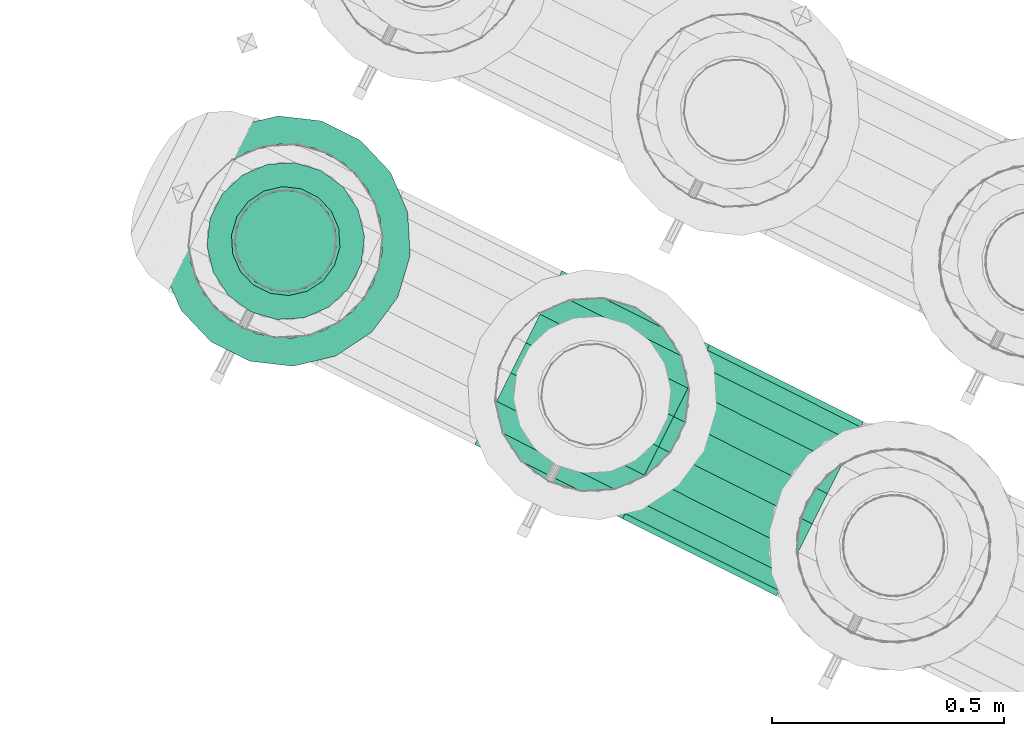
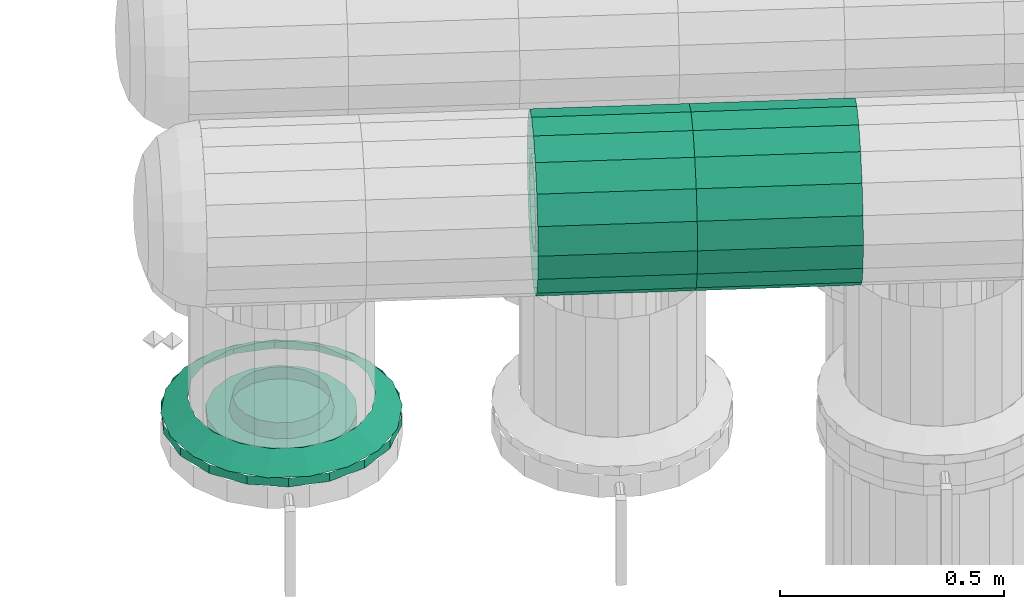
# One storey, part 89 of 152: 2 flow fittings, 1 flow segment.
"""IFC2X3 building model written with IfcOpenShell, lengths in metres."""

from ifc_helpers import new_model, si_unit, derived_unit, direction, frame, origin, place, context, subcontext, project, spatial, face_set, surface_model, source, transform, mapped, material, type_object, type_shapes, element, save


model = new_model("IFC2X3")

# Units and contexts
model_context = context("Model", 3, precision=5.2338327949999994e-05, world=origin(), true_north=direction((0.0, 1.0)))
body_context = subcontext(model_context, "Body", "Model", "MODEL_VIEW")
ifc_project = project(units=[si_unit("LENGTHUNIT", "METRE"), si_unit("AREAUNIT", "SQUARE_METRE"), si_unit("VOLUMEUNIT", "CUBIC_METRE"), si_unit("MASSUNIT", "GRAM", prefix="KILO"), si_unit("PLANEANGLEUNIT", "RADIAN"), derived_unit("THERMALTRANSMITTANCEUNIT", [(si_unit("MASSUNIT", "GRAM", prefix="KILO"), 1), (si_unit("THERMODYNAMICTEMPERATUREUNIT", "KELVIN"), -1), (si_unit("TIMEUNIT", "SECOND"), -3)])], contexts=[model_context])

# Site, building, storey
site_placement = place(None, frame((0.0, 0.0, 0.0), z_axis=(0.0, 0.0, 1.0), x_axis=(0.8939966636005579, -0.4480736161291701, 0.0)))
site = spatial("IfcSite", under=ifc_project, at=site_placement, Name="Default", CompositionType="ELEMENT")
building_placement = place(site_placement, origin())
building = spatial("IfcBuilding", under=site, at=building_placement, CompositionType="ELEMENT")
storey_placement = place(building_placement, frame((0.0, 0.0, 2.7499999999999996)))
storey = spatial("IfcBuildingStorey", under=building, at=storey_placement, Name="1. Obergeschoss", CompositionType="ELEMENT", Elevation=2.7499999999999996)

# Flow fitting
ifc_material = material(Name="IfcSurfaceStyle #9317")
distribution_element_type_1 = type_object("IfcDistributionElementType", Name="Abzweigstück 226052:Abzweigstück 226052", material=ifc_material)
shared_shape_1 = source(origin(), body_context, "Body", "SurfaceModel", [
    surface_model("IfcFaceBasedSurfaceModel", [(6.039419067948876, 7.217658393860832, 5.553028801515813), (6.039419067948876, 7.224265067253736, 5.59049710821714), (5.6834190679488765, 7.224265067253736, 5.59049710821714), (5.6834190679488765, 7.217658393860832, 5.553028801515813), (6.039419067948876, 7.243288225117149, 5.623446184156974), (5.6834190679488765, 7.243288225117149, 5.623446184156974), (6.039419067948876, 7.272433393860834, 5.6479018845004), (5.6834190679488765, 7.272433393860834, 5.6479018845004), (6.039419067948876, 7.308185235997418, 5.660914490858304), (5.6834190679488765, 7.308185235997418, 5.660914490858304), (6.039419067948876, 7.346231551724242, 5.660914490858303), (5.6834190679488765, 7.346231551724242, 5.660914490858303), (6.039419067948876, 7.381983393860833, 5.647901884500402), (5.6834190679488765, 7.381983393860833, 5.647901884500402), (6.039419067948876, 7.411128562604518, 5.623446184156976), (5.6834190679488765, 7.411128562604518, 5.623446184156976), (6.039419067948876, 7.430151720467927, 5.590497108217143), (5.6834190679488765, 7.430151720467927, 5.590497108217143), (6.039419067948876, 7.436758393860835, 5.553028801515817), (5.6834190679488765, 7.436758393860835, 5.553028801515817), (6.039419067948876, 7.4301517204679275, 5.51556049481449), (5.6834190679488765, 7.4301517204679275, 5.51556049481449), (6.039419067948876, 7.411128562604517, 5.482611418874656), (5.6834190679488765, 7.411128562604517, 5.482611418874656), (6.039419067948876, 7.381983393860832, 5.458155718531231), (5.6834190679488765, 7.381983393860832, 5.458155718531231), (6.039419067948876, 7.3462315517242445, 5.445143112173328), (5.6834190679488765, 7.3462315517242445, 5.445143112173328), (6.039419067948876, 7.308185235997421, 5.445143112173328), (5.6834190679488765, 7.308185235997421, 5.445143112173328), (6.039419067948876, 7.272433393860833, 5.45815571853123), (5.6834190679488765, 7.272433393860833, 5.45815571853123), (6.039419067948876, 7.243288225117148, 5.4826114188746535), (5.6834190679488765, 7.243288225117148, 5.4826114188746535), (6.039419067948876, 7.224265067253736, 5.515560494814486), (5.6834190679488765, 7.224265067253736, 5.515560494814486), (6.039419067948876, 7.117658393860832, 5.553028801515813), (6.039419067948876, 7.130295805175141, 5.624699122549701), (5.6834190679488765, 7.130295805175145, 5.624699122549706), (5.6834190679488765, 7.117658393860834, 5.553028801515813), (6.039419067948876, 7.166683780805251, 5.687724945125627), (5.6834190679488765, 7.166683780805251, 5.687724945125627), (6.039419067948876, 7.222433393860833, 5.734504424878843), (5.6834190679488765, 7.222433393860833, 5.734504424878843), (6.039419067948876, 7.290820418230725, 5.759395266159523), (5.6834190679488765, 7.290820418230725, 5.759395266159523), (6.039419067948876, 7.363596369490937, 5.759395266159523), (5.6834190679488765, 7.363596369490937, 5.759395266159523), (6.039419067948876, 7.43198339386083, 5.734504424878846), (5.6834190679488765, 7.43198339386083, 5.734504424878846), (6.039419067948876, 7.487733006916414, 5.687724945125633), (5.6834190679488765, 7.487733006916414, 5.687724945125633), (6.039419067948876, 7.52412098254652, 5.6246991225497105), (5.6834190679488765, 7.52412098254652, 5.6246991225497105), (6.039419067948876, 7.536758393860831, 5.553028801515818), (5.6834190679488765, 7.536758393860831, 5.553028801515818), (6.039419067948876, 7.5241209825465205, 5.481358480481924), (5.6834190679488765, 7.5241209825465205, 5.481358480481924), (6.039419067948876, 7.487733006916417, 5.418332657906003), (5.6834190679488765, 7.487733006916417, 5.418332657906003), (6.039419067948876, 7.431983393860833, 5.371553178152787), (5.6834190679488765, 7.431983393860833, 5.371553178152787), (6.039419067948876, 7.36359636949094, 5.3466623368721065), (5.6834190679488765, 7.36359636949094, 5.3466623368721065), (6.039419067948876, 7.29082041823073, 5.3466623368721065), (5.6834190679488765, 7.29082041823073, 5.3466623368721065), (6.039419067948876, 7.222433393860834, 5.3715531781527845), (5.6834190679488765, 7.222433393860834, 5.3715531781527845), (6.039419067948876, 7.166683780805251, 5.418332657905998), (5.6834190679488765, 7.166683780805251, 5.418332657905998), (6.039419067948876, 7.130295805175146, 5.481358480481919), (5.6834190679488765, 7.130295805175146, 5.481358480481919), (5.751869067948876, 7.327208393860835, 5.443478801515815), (5.758475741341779, 7.3646767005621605, 5.45008547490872), (5.758475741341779, 7.3646767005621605, 5.375028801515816), (5.751869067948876, 7.327208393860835, 5.375028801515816), (5.7774988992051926, 7.397625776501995, 5.469108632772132), (5.7774988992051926, 7.397625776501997, 5.375028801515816), (5.806644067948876, 7.422081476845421, 5.498253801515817), (5.806644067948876, 7.422081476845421, 5.375028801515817), (5.842395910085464, 7.43509408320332, 5.534005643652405), (5.842395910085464, 7.435094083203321, 5.375028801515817), (5.8804422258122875, 7.435094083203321, 5.534005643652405), (5.8804422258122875, 7.435094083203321, 5.375028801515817), (5.916194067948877, 7.422081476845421, 5.498253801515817), (5.916194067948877, 7.422081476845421, 5.375028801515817), (5.94533923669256, 7.397625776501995, 5.469108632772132), (5.94533923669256, 7.397625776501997, 5.375028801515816), (5.964362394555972, 7.3646767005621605, 5.45008547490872), (5.964362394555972, 7.3646767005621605, 5.375028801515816), (5.970969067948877, 7.327208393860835, 5.443478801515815), (5.970969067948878, 7.327208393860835, 5.375028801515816), (5.964362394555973, 7.289740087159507, 5.450085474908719), (5.964362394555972, 7.289740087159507, 5.375028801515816), (5.94533923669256, 7.256791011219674, 5.46910863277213), (5.94533923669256, 7.256791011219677, 5.375028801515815), (5.916194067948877, 7.232335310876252, 5.498253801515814), (5.916194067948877, 7.232335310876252, 5.375028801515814), (5.880442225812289, 7.219322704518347, 5.534005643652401), (5.880442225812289, 7.219322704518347, 5.375028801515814), (5.842395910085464, 7.219322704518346, 5.534005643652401), (5.842395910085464, 7.219322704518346, 5.375028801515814), (5.806644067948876, 7.232335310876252, 5.498253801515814), (5.806644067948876, 7.232335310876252, 5.375028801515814), (5.777498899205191, 7.256791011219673, 5.46910863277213), (5.777498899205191, 7.2567910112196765, 5.375028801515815), (5.7584757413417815, 7.289740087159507, 5.450085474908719), (5.7584757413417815, 7.289740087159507, 5.375028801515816)], [face_set([[[0, 1, 2, 3]], [[1, 4, 5, 2]], [[4, 6, 7, 5]], [[6, 8, 9, 7]], [[8, 10, 11, 9]], [[10, 12, 13, 11]], [[12, 14, 15, 13]], [[14, 16, 17, 15]], [[16, 18, 19, 17]], [[18, 20, 21, 19]], [[20, 22, 23, 21]], [[22, 24, 25, 23]], [[24, 26, 27, 25]], [[26, 28, 29, 27]], [[28, 30, 31, 29]], [[30, 32, 33, 31]], [[32, 34, 35, 33]], [[34, 0, 3, 35]], [[36, 37, 38, 39]], [[37, 40, 41, 38]], [[40, 42, 43, 41]], [[42, 44, 45, 43]], [[44, 46, 47, 45]], [[46, 48, 49, 47]], [[48, 50, 51, 49]], [[50, 52, 53, 51]], [[52, 54, 55, 53]], [[54, 56, 57, 55]], [[56, 58, 59, 57]], [[58, 60, 61, 59]], [[60, 62, 63, 61]], [[62, 64, 65, 63]], [[64, 66, 67, 65]], [[66, 68, 69, 67]], [[68, 70, 71, 69]], [[70, 36, 39, 71]], [[72, 73, 74, 75]], [[73, 76, 77, 74]], [[76, 78, 79, 77]], [[78, 80, 81, 79]], [[80, 82, 83, 81]], [[82, 84, 85, 83]], [[84, 86, 87, 85]], [[86, 88, 89, 87]], [[88, 90, 91, 89]], [[90, 92, 93, 91]], [[92, 94, 95, 93]], [[94, 96, 97, 95]], [[96, 98, 99, 97]], [[98, 100, 101, 99]], [[100, 102, 103, 101]], [[102, 104, 105, 103]], [[104, 106, 107, 105]], [[106, 72, 75, 107]]])]),
])
type_shapes(distribution_element_type_1, [shared_shape_1])
flow_fitting_1_placement = place(storey_placement, frame((0.0, 0.0, -2.7499999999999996)))
element("IfcFlowFitting", 1, at=flow_fitting_1_placement, inside=storey, type_object=distribution_element_type_1, material=ifc_material, Name="Abzweigstück", ObjectType="Abzweigstück", context=body_context, shape_type="MappedRepresentation", body=[
    mapped(shared_shape_1, transform((0.0, 0.0, 0.0), scale=1.0)),
])

# Flow segment
distribution_element_type_2 = type_object("IfcDistributionElementType", Name="Stahlrohr nach DIN 2448 226075:Stahlrohr nach DIN 2448 226075", material=ifc_material)
shared_shape_2 = source(origin(), body_context, "Body", "SurfaceModel", [
    surface_model("IfcFaceBasedSurfaceModel", [(6.4098144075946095, 7.217658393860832, 5.553028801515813), (6.4098144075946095, 7.224265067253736, 5.59049710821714), (6.039419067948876, 7.224265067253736, 5.59049710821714), (6.039419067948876, 7.217658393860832, 5.553028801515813), (6.4098144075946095, 7.243288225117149, 5.623446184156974), (6.039419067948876, 7.243288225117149, 5.623446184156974), (6.4098144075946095, 7.272433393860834, 5.6479018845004), (6.039419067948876, 7.272433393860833, 5.647901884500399), (6.4098144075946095, 7.30818523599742, 5.660914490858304), (6.039419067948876, 7.308185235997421, 5.660914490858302), (6.4098144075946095, 7.346231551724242, 5.660914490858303), (6.039419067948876, 7.346231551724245, 5.660914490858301), (6.4098144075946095, 7.381983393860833, 5.6479018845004), (6.039419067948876, 7.381983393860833, 5.6479018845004), (6.4098144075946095, 7.411128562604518, 5.623446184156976), (6.039419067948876, 7.411128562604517, 5.623446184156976), (6.4098144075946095, 7.430151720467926, 5.590497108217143), (6.039419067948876, 7.4301517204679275, 5.590497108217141), (6.4098144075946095, 7.436758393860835, 5.553028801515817), (6.039419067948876, 7.436758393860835, 5.553028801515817), (6.4098144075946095, 7.430151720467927, 5.51556049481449), (6.039419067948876, 7.430151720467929, 5.515560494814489), (6.4098144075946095, 7.411128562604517, 5.482611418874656), (6.039419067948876, 7.411128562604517, 5.482611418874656), (6.4098144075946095, 7.381983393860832, 5.458155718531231), (6.039419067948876, 7.381983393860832, 5.4581557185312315), (6.4098144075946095, 7.3462315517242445, 5.4451431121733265), (6.039419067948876, 7.346231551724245, 5.4451431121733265), (6.4098144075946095, 7.308185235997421, 5.445143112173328), (6.039419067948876, 7.3081852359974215, 5.445143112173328), (6.4098144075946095, 7.272433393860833, 5.45815571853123), (6.039419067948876, 7.272433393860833, 5.45815571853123), (6.4098144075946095, 7.243288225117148, 5.4826114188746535), (6.039419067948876, 7.2432882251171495, 5.482611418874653), (6.4098144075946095, 7.224265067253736, 5.515560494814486), (6.039419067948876, 7.224265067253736, 5.515560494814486), (6.4098144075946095, 7.117658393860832, 5.553028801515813), (6.4098144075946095, 7.130295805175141, 5.624699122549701), (6.039419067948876, 7.130295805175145, 5.624699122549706), (6.039419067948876, 7.117658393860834, 5.553028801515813), (6.4098144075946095, 7.166683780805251, 5.687724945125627), (6.039419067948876, 7.166683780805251, 5.687724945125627), (6.4098144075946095, 7.222433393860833, 5.734504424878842), (6.039419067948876, 7.222433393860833, 5.734504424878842), (6.4098144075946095, 7.290820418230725, 5.759395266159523), (6.039419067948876, 7.290820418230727, 5.7593952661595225), (6.4098144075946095, 7.363596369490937, 5.759395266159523), (6.039419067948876, 7.363596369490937, 5.7593952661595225), (6.4098144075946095, 7.43198339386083, 5.734504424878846), (6.039419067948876, 7.431983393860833, 5.734504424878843), (6.4098144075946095, 7.487733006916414, 5.687724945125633), (6.039419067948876, 7.487733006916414, 5.687724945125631), (6.4098144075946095, 7.524120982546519, 5.62469912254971), (6.039419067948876, 7.5241209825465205, 5.6246991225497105), (6.4098144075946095, 7.536758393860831, 5.553028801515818), (6.039419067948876, 7.5367583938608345, 5.553028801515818), (6.4098144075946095, 7.5241209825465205, 5.481358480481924), (6.039419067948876, 7.5241209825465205, 5.481358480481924), (6.4098144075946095, 7.487733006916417, 5.418332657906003), (6.039419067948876, 7.487733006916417, 5.418332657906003), (6.4098144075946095, 7.431983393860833, 5.371553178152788), (6.039419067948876, 7.4319833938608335, 5.371553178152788), (6.4098144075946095, 7.36359636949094, 5.3466623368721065), (6.039419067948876, 7.36359636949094, 5.3466623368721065), (6.4098144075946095, 7.29082041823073, 5.3466623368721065), (6.039419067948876, 7.290820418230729, 5.346662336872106), (6.4098144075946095, 7.222433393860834, 5.371553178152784), (6.039419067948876, 7.222433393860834, 5.371553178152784), (6.4098144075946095, 7.16668378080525, 5.4183326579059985), (6.039419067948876, 7.166683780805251, 5.418332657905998), (6.4098144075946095, 7.130295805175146, 5.481358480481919), (6.039419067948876, 7.130295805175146, 5.481358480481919)], [face_set([[[0, 1, 2, 3]], [[1, 4, 5, 2]], [[4, 6, 7, 5]], [[6, 8, 9, 7]], [[8, 10, 11, 9]], [[10, 12, 13, 11]], [[12, 14, 15, 13]], [[14, 16, 17, 15]], [[16, 18, 19, 17]], [[18, 20, 21, 19]], [[20, 22, 23, 21]], [[22, 24, 25, 23]], [[24, 26, 27, 25]], [[26, 28, 29, 27]], [[28, 30, 31, 29]], [[30, 32, 33, 31]], [[32, 34, 35, 33]], [[34, 0, 3, 35]], [[36, 37, 38, 39]], [[37, 40, 41, 38]], [[40, 42, 43, 41]], [[42, 44, 45, 43]], [[44, 46, 47, 45]], [[46, 48, 49, 47]], [[48, 50, 51, 49]], [[50, 52, 53, 51]], [[52, 54, 55, 53]], [[54, 56, 57, 55]], [[56, 58, 59, 57]], [[58, 60, 61, 59]], [[60, 62, 63, 61]], [[62, 64, 65, 63]], [[64, 66, 67, 65]], [[66, 68, 69, 67]], [[68, 70, 71, 69]], [[70, 36, 39, 71]]])]),
])
type_shapes(distribution_element_type_2, [shared_shape_2])
flow_segment_placement = place(storey_placement, frame((0.0, 0.0, -2.7499999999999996)))
element("IfcFlowSegment", 2, at=flow_segment_placement, inside=storey, type_object=distribution_element_type_2, material=ifc_material, Name="Stahlrohr nach DIN 2448", ObjectType="Stahlrohr nach DIN 2448", context=body_context, shape_type="MappedRepresentation", body=[
    mapped(shared_shape_2, transform((0.0, 0.0, 0.0), scale=1.0)),
])

# Flow fitting
distribution_element_type_3 = type_object("IfcDistributionElementType", Name="Flansch 245558:Flansch 245558", material=ifc_material)
shared_shape_3 = source(origin(), body_context, "Body", "SurfaceModel", [
    surface_model("IfcFaceBasedSurfaceModel", [(5.013216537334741, 7.327208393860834, 5.052622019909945), (5.019823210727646, 7.36467670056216, 5.052622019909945), (5.012352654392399, 7.367395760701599, 5.0146220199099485), (5.005266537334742, 7.327208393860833, 5.0146220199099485), (5.038846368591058, 7.397625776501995, 5.052622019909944), (5.032756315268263, 7.402735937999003, 5.014622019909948), (5.067991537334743, 7.42208147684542, 5.052622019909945), (5.0640165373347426, 7.428966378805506, 5.014622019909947), (5.1037433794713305, 7.435094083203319, 5.052622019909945), (5.102362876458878, 7.442923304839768, 5.014622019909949), (5.141789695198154, 7.435094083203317, 5.052622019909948), (5.1431701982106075, 7.442923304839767, 5.0146220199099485), (5.177541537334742, 7.4220814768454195, 5.052622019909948), (5.181516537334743, 7.428966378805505, 5.014622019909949), (5.206686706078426, 7.397625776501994, 5.052622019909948), (5.2127767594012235, 7.402735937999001, 5.01462201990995), (5.225709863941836, 7.364676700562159, 5.052622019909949), (5.233180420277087, 7.367395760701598, 5.014622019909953), (5.23231653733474, 7.3272083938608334, 5.052622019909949), (5.240266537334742, 7.327208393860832, 5.014622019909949), (5.225709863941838, 7.289740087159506, 5.05262201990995), (5.233180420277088, 7.287021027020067, 5.014622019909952), (5.206686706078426, 7.256791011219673, 5.05262201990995), (5.212776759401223, 7.251680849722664, 5.014622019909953), (5.177541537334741, 7.2323353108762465, 5.052622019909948), (5.181516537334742, 7.2254504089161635, 5.014622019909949), (5.1417896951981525, 7.219322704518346, 5.052622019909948), (5.143170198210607, 7.211493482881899, 5.014622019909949), (5.103743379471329, 7.219322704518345, 5.052622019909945), (5.102362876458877, 7.211493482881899, 5.014622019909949), (5.0679915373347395, 7.232335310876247, 5.052622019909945), (5.064016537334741, 7.2254504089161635, 5.014622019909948), (5.038846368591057, 7.256791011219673, 5.052622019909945), (5.032756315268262, 7.251680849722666, 5.0146220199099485), (5.019823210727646, 7.289740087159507, 5.052622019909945), (5.012352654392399, 7.287021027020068, 5.0146220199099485), (5.122766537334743, 7.497208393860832, 5.0146220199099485), (5.180909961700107, 7.486956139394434, 5.01462201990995), (5.180909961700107, 7.486956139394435, 4.990622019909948), (5.122766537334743, 7.4972083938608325, 4.990622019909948), (5.2320404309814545, 7.457435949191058, 5.014622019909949), (5.232040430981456, 7.457435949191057, 4.990622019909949), (5.269990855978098, 7.4122083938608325, 5.014622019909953), (5.269990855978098, 7.412208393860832, 4.990622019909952), (5.290183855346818, 7.356728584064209, 5.014622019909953), (5.290183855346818, 7.356728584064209, 4.990622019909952), (5.290183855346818, 7.297688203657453, 5.014622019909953), (5.290183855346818, 7.297688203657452, 4.990622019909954), (5.269990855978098, 7.24220839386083, 5.014622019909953), (5.269990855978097, 7.24220839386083, 4.990622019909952), (5.232040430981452, 7.196980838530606, 5.01462201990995), (5.232040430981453, 7.196980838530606, 4.990622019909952), (5.180909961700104, 7.1674606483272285, 5.01462201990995), (5.180909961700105, 7.167460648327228, 4.990622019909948), (5.122766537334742, 7.157208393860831, 5.014622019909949), (5.122766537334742, 7.157208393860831, 4.9906220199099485), (5.064623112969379, 7.167460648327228, 5.0146220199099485), (5.064623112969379, 7.167460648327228, 4.990622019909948), (5.013492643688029, 7.196980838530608, 5.014622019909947), (5.013492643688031, 7.196980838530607, 4.990622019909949), (4.9755422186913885, 7.242208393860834, 5.014622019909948), (4.9755422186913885, 7.242208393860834, 4.990622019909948), (4.955349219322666, 7.297688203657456, 5.014622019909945), (4.955349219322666, 7.297688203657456, 4.990622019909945), (4.955349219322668, 7.356728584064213, 5.014622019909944), (4.955349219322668, 7.356728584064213, 4.990622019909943), (4.975542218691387, 7.412208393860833, 5.014622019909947), (4.975542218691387, 7.412208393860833, 4.990622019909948), (5.013492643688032, 7.457435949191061, 5.014622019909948), (5.013492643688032, 7.457435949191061, 4.990622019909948), (5.064623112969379, 7.4869561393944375, 5.014622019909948), (5.064623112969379, 7.4869561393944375, 4.990622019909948), (5.122766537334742, 7.3272083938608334, 5.014622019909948), (4.913216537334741, 7.327208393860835, 5.052622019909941), (4.9258539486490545, 7.398878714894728, 5.052622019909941), (4.869049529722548, 7.419553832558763, 5.014622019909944), (4.852766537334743, 7.3272083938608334, 5.014622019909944), (4.962241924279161, 7.461904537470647, 5.052622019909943), (4.91593453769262, 7.5007610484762, 5.014622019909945), (5.017991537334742, 7.508684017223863, 5.052622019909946), (4.987766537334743, 7.561035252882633, 5.014622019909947), (5.086378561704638, 7.533574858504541, 5.052622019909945), (5.075881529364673, 7.593106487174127, 5.0146220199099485), (5.159154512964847, 7.533574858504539, 5.052622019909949), (5.169651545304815, 7.593106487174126, 5.01462201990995), (5.227541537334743, 7.508684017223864, 5.0526220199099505), (5.257766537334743, 7.561035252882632, 5.01462201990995), (5.283291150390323, 7.461904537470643, 5.052622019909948), (5.329598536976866, 7.500761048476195, 5.014622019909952), (5.3196791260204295, 7.398878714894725, 5.0526220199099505), (5.376483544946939, 7.4195538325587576, 5.014622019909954), (5.332316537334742, 7.32720839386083, 5.0526220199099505), (5.392766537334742, 7.327208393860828, 5.014622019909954), (5.319679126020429, 7.255538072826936, 5.0526220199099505), (5.376483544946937, 7.234862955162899, 5.014622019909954), (5.283291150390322, 7.192512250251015, 5.052622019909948), (5.329598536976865, 7.153655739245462, 5.014622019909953), (5.227541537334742, 7.145732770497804, 5.052622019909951), (5.257766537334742, 7.093381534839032, 5.014622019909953), (5.159154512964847, 7.120841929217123, 5.05262201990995), (5.169651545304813, 7.061310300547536, 5.014622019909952), (5.086378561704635, 7.120841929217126, 5.052622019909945), (5.075881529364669, 7.061310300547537, 5.014622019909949), (5.0179915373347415, 7.145732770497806, 5.052622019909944), (4.987766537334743, 7.093381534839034, 5.014622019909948), (4.9622419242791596, 7.19251225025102, 5.052622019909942), (4.915934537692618, 7.153655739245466, 5.014622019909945), (4.925853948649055, 7.2555380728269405, 5.052622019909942), (4.869049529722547, 7.234862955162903, 5.014622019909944), (5.122766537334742, 7.59720839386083, 5.0146220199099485), (5.2151119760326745, 7.580925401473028, 5.01462201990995), (5.2151119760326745, 7.580925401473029, 4.990622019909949), (5.122766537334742, 7.597208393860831, 4.990622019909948), (5.296319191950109, 7.534040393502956, 5.014622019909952), (5.296319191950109, 7.534040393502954, 4.990622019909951), (5.3565933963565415, 7.462208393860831, 5.014622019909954), (5.3565933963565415, 7.462208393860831, 4.990622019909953), (5.388664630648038, 7.374093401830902, 5.014622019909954), (5.388664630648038, 7.374093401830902, 4.990622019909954), (5.388664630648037, 7.280323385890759, 5.014622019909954), (5.388664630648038, 7.280323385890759, 4.990622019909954), (5.3565933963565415, 7.192208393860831, 5.014622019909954), (5.3565933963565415, 7.192208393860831, 4.990622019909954), (5.296319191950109, 7.120376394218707, 5.014622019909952), (5.296319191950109, 7.120376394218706, 4.990622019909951), (5.215111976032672, 7.073491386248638, 5.014622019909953), (5.215111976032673, 7.0734913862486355, 4.990622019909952), (5.1227665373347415, 7.057208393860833, 5.01462201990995), (5.1227665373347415, 7.057208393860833, 4.990622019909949), (5.030421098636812, 7.073491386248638, 5.014622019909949), (5.030421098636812, 7.073491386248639, 4.9906220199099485), (4.949213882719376, 7.120376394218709, 5.014622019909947), (4.949213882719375, 7.1203763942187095, 4.990622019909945), (4.888939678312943, 7.192208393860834, 5.014622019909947), (4.888939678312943, 7.1922083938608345, 4.990622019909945), (4.856868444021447, 7.280323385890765, 5.014622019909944), (4.856868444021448, 7.280323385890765, 4.990622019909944), (4.856868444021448, 7.3740934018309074, 5.014622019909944), (4.856868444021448, 7.3740934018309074, 4.990622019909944), (4.888939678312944, 7.462208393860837, 5.014622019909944), (4.888939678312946, 7.462208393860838, 4.990622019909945), (4.949213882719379, 7.534040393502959, 5.014622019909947), (4.949213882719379, 7.534040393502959, 4.990622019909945), (5.030421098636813, 7.580925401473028, 5.014622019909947), (5.030421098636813, 7.580925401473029, 4.990622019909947)], [face_set([[[0, 1, 2, 3]], [[1, 4, 5, 2]], [[4, 6, 7, 5]], [[6, 8, 9, 7]], [[8, 10, 11, 9]], [[10, 12, 13, 11]], [[12, 14, 15, 13]], [[14, 16, 17, 15]], [[16, 18, 19, 17]], [[18, 20, 21, 19]], [[20, 22, 23, 21]], [[22, 24, 25, 23]], [[24, 26, 27, 25]], [[26, 28, 29, 27]], [[28, 30, 31, 29]], [[30, 32, 33, 31]], [[32, 34, 35, 33]], [[34, 0, 3, 35]], [[36, 37, 38, 39]], [[37, 40, 41, 38]], [[40, 42, 43, 41]], [[42, 44, 45, 43]], [[44, 46, 47, 45]], [[46, 48, 49, 47]], [[48, 50, 51, 49]], [[50, 52, 53, 51]], [[52, 54, 55, 53]], [[54, 56, 57, 55]], [[56, 58, 59, 57]], [[58, 60, 61, 59]], [[60, 62, 63, 61]], [[62, 64, 65, 63]], [[64, 66, 67, 65]], [[66, 68, 69, 67]], [[68, 70, 71, 69]], [[70, 36, 39, 71]], [[72, 37, 36]], [[72, 40, 37]], [[72, 42, 40]], [[72, 44, 42]], [[72, 46, 44]], [[72, 48, 46]], [[72, 50, 48]], [[72, 52, 50]], [[72, 54, 52]], [[72, 56, 54]], [[72, 58, 56]], [[72, 60, 58]], [[72, 62, 60]], [[72, 64, 62]], [[72, 66, 64]], [[72, 68, 66]], [[72, 70, 68]], [[72, 36, 70]], [[73, 74, 75, 76]], [[74, 77, 78, 75]], [[77, 79, 80, 78]], [[79, 81, 82, 80]], [[81, 83, 84, 82]], [[83, 85, 86, 84]], [[85, 87, 88, 86]], [[87, 89, 90, 88]], [[89, 91, 92, 90]], [[91, 93, 94, 92]], [[93, 95, 96, 94]], [[95, 97, 98, 96]], [[97, 99, 100, 98]], [[99, 101, 102, 100]], [[101, 103, 104, 102]], [[103, 105, 106, 104]], [[105, 107, 108, 106]], [[107, 73, 76, 108]], [[109, 110, 111, 112]], [[110, 113, 114, 111]], [[113, 115, 116, 114]], [[115, 117, 118, 116]], [[117, 119, 120, 118]], [[119, 121, 122, 120]], [[121, 123, 124, 122]], [[123, 125, 126, 124]], [[125, 127, 128, 126]], [[127, 129, 130, 128]], [[129, 131, 132, 130]], [[131, 133, 134, 132]], [[133, 135, 136, 134]], [[135, 137, 138, 136]], [[137, 139, 140, 138]], [[139, 141, 142, 140]], [[141, 143, 144, 142]], [[143, 109, 112, 144]]])]),
])
type_shapes(distribution_element_type_3, [shared_shape_3])
flow_fitting_2_placement = place(storey_placement, frame((0.0, 0.0, -2.7499999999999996)))
element("IfcFlowFitting", 3, at=flow_fitting_2_placement, inside=storey, type_object=distribution_element_type_3, material=ifc_material, Name="Flansch", ObjectType="Flansch", context=body_context, shape_type="MappedRepresentation", body=[
    mapped(shared_shape_3, transform((0.0, 0.0, 0.0), scale=1.0)),
])

save(model, "model.ifc")
